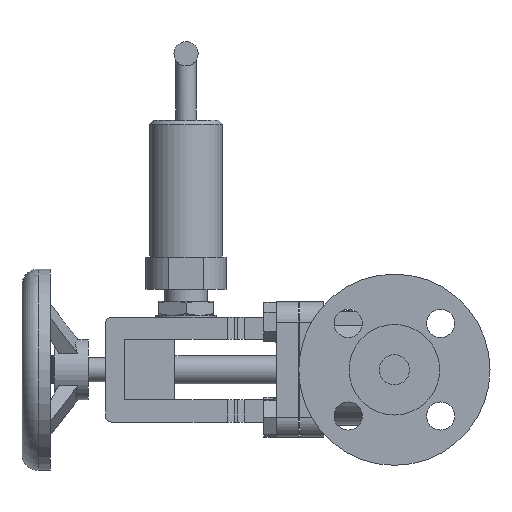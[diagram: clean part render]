
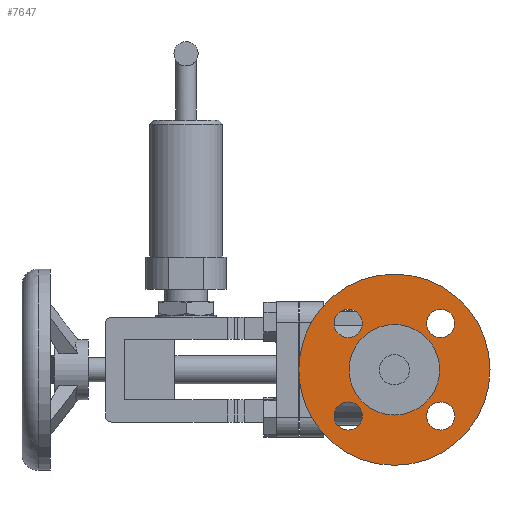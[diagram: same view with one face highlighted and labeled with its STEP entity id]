
A CAD part, left-side view. The second image highlights one B-rep face of the part: STEP entity #7647.
In plain terms, the highlighted planar face has unit normal (-1, 0, 0).
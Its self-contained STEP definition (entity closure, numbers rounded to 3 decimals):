
#282=FACE_BOUND('',#1230,.T.);
#283=FACE_BOUND('',#1231,.T.);
#284=FACE_BOUND('',#1232,.T.);
#285=FACE_BOUND('',#1233,.T.);
#286=FACE_BOUND('',#1234,.T.);
#796=FACE_OUTER_BOUND('',#1229,.T.);
#1229=EDGE_LOOP('',(#6560));
#1230=EDGE_LOOP('',(#6561));
#1231=EDGE_LOOP('',(#6562));
#1232=EDGE_LOOP('',(#6563));
#1233=EDGE_LOOP('',(#6564));
#1234=EDGE_LOOP('',(#6565));
#2788=CIRCLE('',#8112,47.5);
#2791=CIRCLE('',#8116,7.);
#2793=CIRCLE('',#8119,7.);
#2795=CIRCLE('',#8122,7.);
#2797=CIRCLE('',#8125,7.);
#2798=CIRCLE('',#8127,22.5);
#3446=VERTEX_POINT('',#13000);
#3449=VERTEX_POINT('',#13008);
#3451=VERTEX_POINT('',#13014);
#3453=VERTEX_POINT('',#13020);
#3455=VERTEX_POINT('',#13026);
#3456=VERTEX_POINT('',#13030);
#4440=EDGE_CURVE('',#3446,#3446,#2788,.T.);
#4445=EDGE_CURVE('',#3449,#3449,#2791,.T.);
#4448=EDGE_CURVE('',#3451,#3451,#2793,.T.);
#4451=EDGE_CURVE('',#3453,#3453,#2795,.T.);
#4454=EDGE_CURVE('',#3455,#3455,#2797,.T.);
#4455=EDGE_CURVE('',#3456,#3456,#2798,.T.);
#6560=ORIENTED_EDGE('',*,*,#4440,.F.);
#6561=ORIENTED_EDGE('',*,*,#4448,.F.);
#6562=ORIENTED_EDGE('',*,*,#4451,.F.);
#6563=ORIENTED_EDGE('',*,*,#4454,.F.);
#6564=ORIENTED_EDGE('',*,*,#4445,.F.);
#6565=ORIENTED_EDGE('',*,*,#4455,.F.);
#6865=PLANE('',#8185);
#7647=ADVANCED_FACE('',(#796,#282,#283,#284,#285,#286),#6865,.F.);
#8112=AXIS2_PLACEMENT_3D('',#13001,#9683,#9684);
#8116=AXIS2_PLACEMENT_3D('',#13010,#9693,#9694);
#8119=AXIS2_PLACEMENT_3D('',#13016,#9700,#9701);
#8122=AXIS2_PLACEMENT_3D('',#13022,#9707,#9708);
#8125=AXIS2_PLACEMENT_3D('',#13028,#9714,#9715);
#8127=AXIS2_PLACEMENT_3D('',#13031,#9718,#9719);
#8185=AXIS2_PLACEMENT_3D('',#13194,#9898,#9899);
#9683=DIRECTION('center_axis',(1.,0.,0.));
#9684=DIRECTION('ref_axis',(0.,0.,-1.));
#9693=DIRECTION('center_axis',(-1.,0.,0.));
#9694=DIRECTION('ref_axis',(0.,0.,-1.));
#9700=DIRECTION('center_axis',(-1.,0.,0.));
#9701=DIRECTION('ref_axis',(0.,0.,-1.));
#9707=DIRECTION('center_axis',(-1.,0.,0.));
#9708=DIRECTION('ref_axis',(0.,0.,-1.));
#9714=DIRECTION('center_axis',(-1.,0.,0.));
#9715=DIRECTION('ref_axis',(0.,0.,-1.));
#9718=DIRECTION('center_axis',(-1.,0.,0.));
#9719=DIRECTION('ref_axis',(0.,1.,0.));
#9898=DIRECTION('center_axis',(1.,0.,0.));
#9899=DIRECTION('ref_axis',(0.,0.,-1.));
#13000=CARTESIAN_POINT('',(-110.047,-60.117,-9.));
#13001=CARTESIAN_POINT('Origin',(-110.047,-60.117,-56.5));
#13008=CARTESIAN_POINT('',(-110.047,-37.136,-72.481));
#13010=CARTESIAN_POINT('Origin',(-110.047,-37.136,-79.481));
#13014=CARTESIAN_POINT('',(-110.047,-83.098,-72.481));
#13016=CARTESIAN_POINT('Origin',(-110.047,-83.098,-79.481));
#13020=CARTESIAN_POINT('',(-110.047,-37.136,-26.519));
#13022=CARTESIAN_POINT('Origin',(-110.047,-37.136,-33.519));
#13026=CARTESIAN_POINT('',(-110.047,-83.098,-26.519));
#13028=CARTESIAN_POINT('Origin',(-110.047,-83.098,-33.519));
#13030=CARTESIAN_POINT('',(-110.047,-82.617,-56.5));
#13031=CARTESIAN_POINT('Origin',(-110.047,-60.117,-56.5));
#13194=CARTESIAN_POINT('Origin',(-110.047,-25.117,-56.5));
